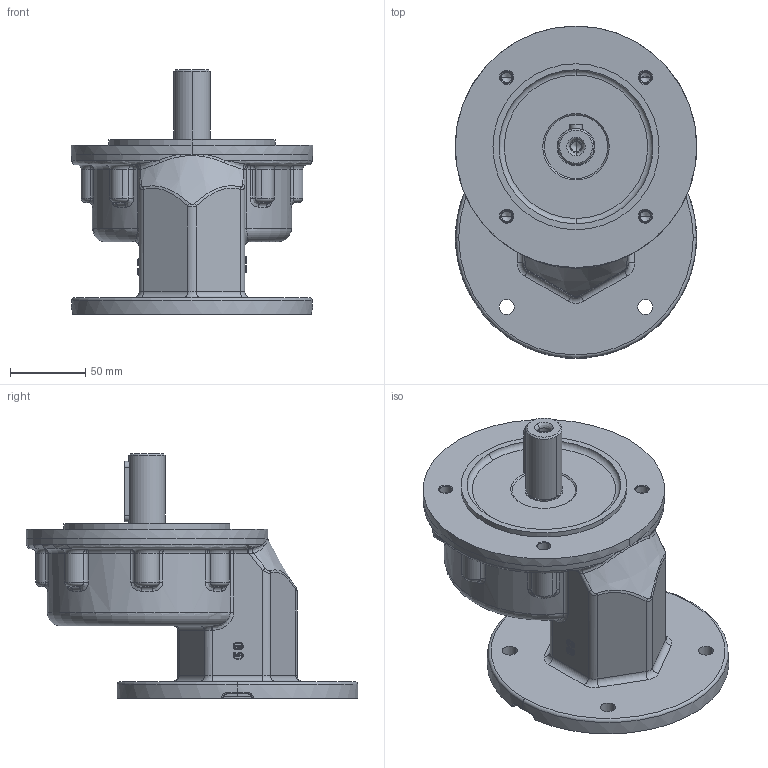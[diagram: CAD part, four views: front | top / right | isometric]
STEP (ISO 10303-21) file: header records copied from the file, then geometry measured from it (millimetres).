
FILE_DESCRIPTION (( 'STEP AP214' ), '1' );
FILE_NAME ('atc60-f130-ap90.STEP', '2010-01-29T07:28:07', ( '' ), ( '' ), 'SwSTEP 2.0', 'SolidWorks 2003240', '' );
FILE_SCHEMA (( 'AUTOMOTIVE_DESIGN' ));
Length unit declared in the file: millimetre
Products named in the file (4): D6912_Šroub DIN 6912 - M6x16; atc60-f130-ap90; ATC60_ATC60-AP90; pøíruba d55 MRT60a_pøíruba 110-130-160
Assembly tree (8 placements, depth 2):
  atc60-f130-ap90
    D6912_Šroub DIN 6912 - M6x16  x6
    pøíruba d55 MRT60a_pøíruba 110-130-160
    ATC60_ATC60-AP90
Bounding box: 160 x 219.71 x 162 mm (x, y, z)
Volume: 1341085.8 mm3; surface area: 150516.5 mm2
Topology: 8 solids, 8 shells, 1018 faces, 2289 edges, 1299 vertices
Faces by surface type: torus 286, cylinder 232, plane 188, cone 176, bspline 118, sphere 18
Entity records: 113619 total; most frequent: CARTESIAN_POINT 94381, DIRECTION 4199, ORIENTED_EDGE 3858, EDGE_CURVE 1929, AXIS2_PLACEMENT_3D 1882, CIRCLE 1156, VERTEX_POINT 1142, EDGE_LOOP 895
